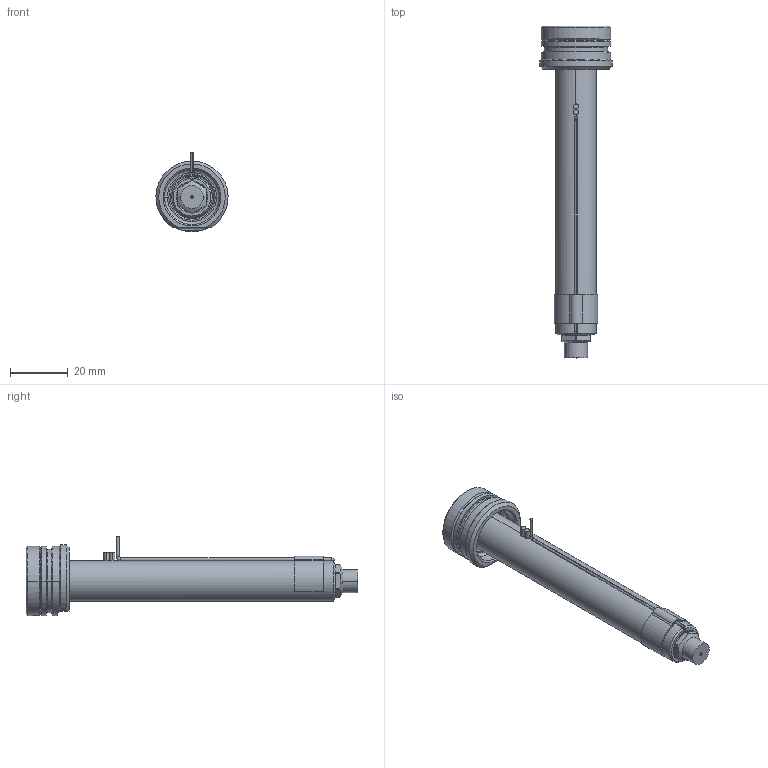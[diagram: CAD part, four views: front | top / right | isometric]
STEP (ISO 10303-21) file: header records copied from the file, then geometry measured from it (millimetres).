
FILE_DESCRIPTION((''),'2;1');
FILE_NAME('EO04_PG-FB_WR_100_SW','2024-02-19T11:23:35',('sundharh'),(''),'CREO PARAMETRIC BY PTC INC, 2023154','CREO PARAMETRIC BY PTC INC, 2023154','');
FILE_SCHEMA(('CONFIG_CONTROL_DESIGN'));
Length unit declared in the file: millimetre
Products named in the file (1): EO04_PG-FB_WR_100_SW
Bounding box: 24.99 x 115 x 27.5 mm (x, y, z)
Volume: 19436 mm3; surface area: 9897.9 mm2
Topology: 2 solids, 2 shells, 222 faces, 599 edges, 365 vertices
Faces by surface type: cylinder 84, plane 58, cone 44, torus 22, bspline 11, sphere 3
Entity records: 8228 total; most frequent: CARTESIAN_POINT 2621, DIRECTION 1217, ORIENTED_EDGE 1178, EDGE_CURVE 589, AXIS2_PLACEMENT_3D 510, VERTEX_POINT 365, CIRCLE 299, EDGE_LOOP 238
